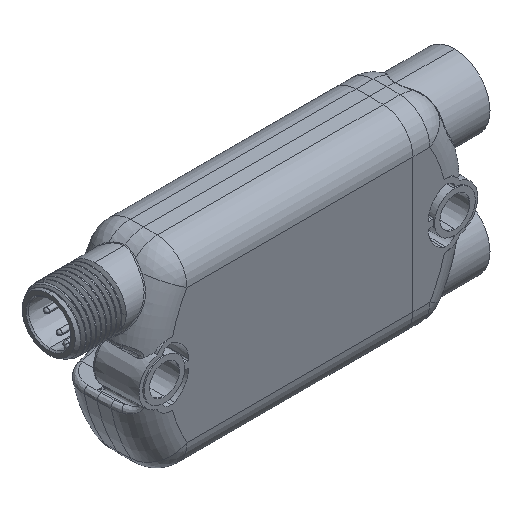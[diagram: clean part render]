
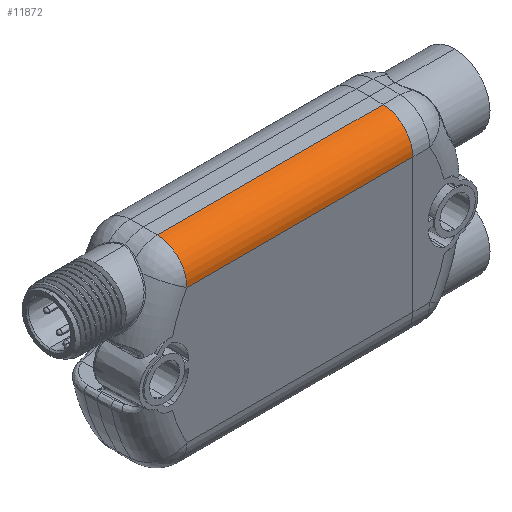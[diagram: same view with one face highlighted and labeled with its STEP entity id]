
A CAD part, isometric view. The second image highlights one B-rep face of the part: STEP entity #11872.
In plain terms, the highlighted cylindrical face has radius 6 mm (diameter 12 mm), a partial arc.
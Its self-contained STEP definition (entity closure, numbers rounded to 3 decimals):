
#22=DIRECTION('',(-1.,0.,0.));
#23=VECTOR('',#22,44.332);
#24=CARTESIAN_POINT('',(20.5,-13.182,-8.5));
#25=LINE('',#24,#23);
#3256=CARTESIAN_POINT('',(20.5,-13.182,-2.5));
#3257=DIRECTION('',(1.,0.,0.));
#3258=DIRECTION('',(0.,-1.,-0.026));
#3259=AXIS2_PLACEMENT_3D('',#3256,#3257,#3258);
#3515=CARTESIAN_POINT('',(-23.832,-13.182,-2.5));
#3516=DIRECTION('',(-1.,0.,0.));
#3517=DIRECTION('',(0.,0.,-1.));
#3518=AXIS2_PLACEMENT_3D('',#3515,#3516,#3517);
#3590=CARTESIAN_POINT('',(-23.832,-19.18,
-2.657));
#3592=DIRECTION('',(-1.,0.,0.));
#3593=VECTOR('',#3592,44.332);
#3594=CARTESIAN_POINT('',(20.5,-19.18,-2.657));
#3595=LINE('',#3594,#3593);
#6414=VERTEX_POINT('',#3590);
#6415=CARTESIAN_POINT('',(20.5,-19.18,-2.657));
#6416=CARTESIAN_POINT('',(20.5,-13.182,-8.5));
#6417=VERTEX_POINT('',#6415);
#6418=VERTEX_POINT('',#6416);
#6419=CARTESIAN_POINT('',(-23.832,-13.182,-8.5));
#6420=VERTEX_POINT('',#6419);
#11861=CARTESIAN_POINT('',(90.894,-13.182,-2.5));
#11862=DIRECTION('',(-1.,0.,0.));
#11863=DIRECTION('',(0.,0.,-1.));
#11864=AXIS2_PLACEMENT_3D('',#11861,#11862,#11863);
#11865=CYLINDRICAL_SURFACE('',#11864,6.);
#11866=ORIENTED_EDGE('',*,*,#11220,.T.);
#11867=ORIENTED_EDGE('',*,*,#7215,.T.);
#11868=ORIENTED_EDGE('',*,*,#11598,.T.);
#11869=ORIENTED_EDGE('',*,*,#11856,.F.);
#11870=EDGE_LOOP('',(#11866,#11867,#11868,#11869));
#11871=FACE_OUTER_BOUND('',#11870,.F.);
#11872=ADVANCED_FACE('',(#11871),#11865,.T.);
#3260=CIRCLE('',#3259,6.);
#3519=CIRCLE('',#3518,6.);
#7215=EDGE_CURVE('',#6418,#6420,#25,.T.);
#11220=EDGE_CURVE('',#6417,#6418,#3260,.T.);
#11598=EDGE_CURVE('',#6420,#6414,#3519,.T.);
#11856=EDGE_CURVE('',#6417,#6414,#3595,.T.);
